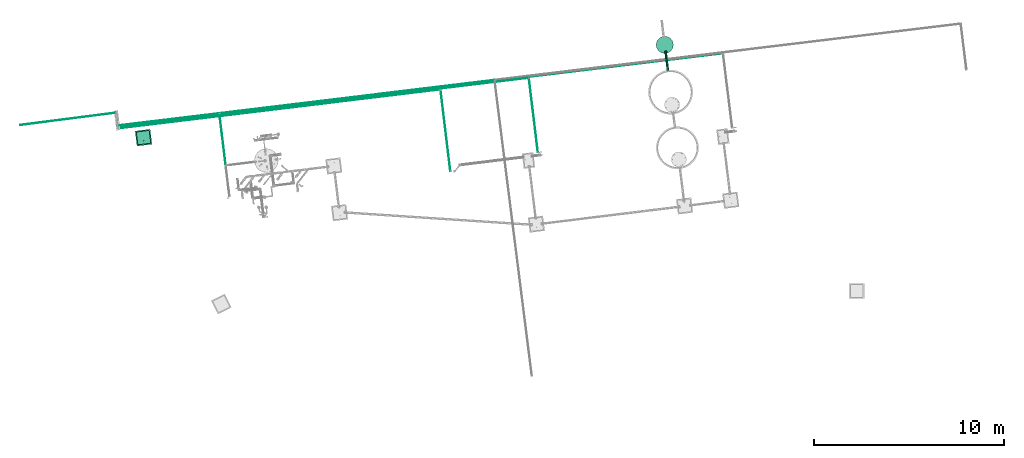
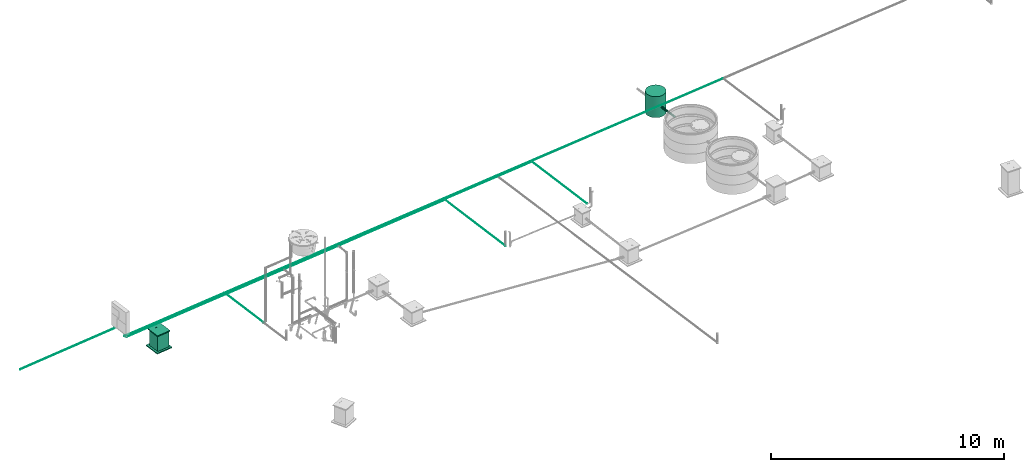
# One storey, part 8 of 97: 10 flow segments, 2 flow terminals.
"""IFC2X3 building model written with IfcOpenShell, lengths in centimetres."""

from ifc_helpers import new_model, entity, si_unit, converted_unit, derived_unit, direction, frame, frame_2d, origin, origin_2d_with_axis, place, context, subcontext, project, spatial, rectangle, circle, hollow_circle, extrude, faceted_brep, source, transform, mapped, material, material_list, type_object, type_shapes, element, save


model = new_model("IFC2X3")

# Units and contexts
model_context = context("Model", 3, precision=0.001, world=origin(), true_north=direction((6.12303176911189e-17, 1.0)))
body_context = subcontext(model_context, "Body", "Model", "MODEL_VIEW")
ifc_project = project(units=[si_unit("LENGTHUNIT", "METRE", prefix="CENTI"), si_unit("AREAUNIT", "SQUARE_METRE"), si_unit("VOLUMEUNIT", "CUBIC_METRE"), converted_unit("PLANEANGLEUNIT", "DEGREE", entity("IfcRatioMeasure", 0.0174532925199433), si_unit("PLANEANGLEUNIT", "RADIAN"), dimensions=[0, 0, 0, 0, 0, 0, 0]), si_unit("MASSUNIT", "GRAM", prefix="KILO"), derived_unit("MASSDENSITYUNIT", [(si_unit("MASSUNIT", "GRAM", prefix="KILO"), 1), (si_unit("LENGTHUNIT", "METRE"), -3)]), derived_unit("MOMENTOFINERTIAUNIT", [(si_unit("LENGTHUNIT", "METRE"), 4)]), si_unit("TIMEUNIT", "SECOND"), si_unit("FREQUENCYUNIT", "HERTZ"), si_unit("THERMODYNAMICTEMPERATUREUNIT", "DEGREE_CELSIUS"), derived_unit("THERMALTRANSMITTANCEUNIT", [(si_unit("MASSUNIT", "GRAM", prefix="KILO"), 1), (si_unit("THERMODYNAMICTEMPERATUREUNIT", "KELVIN"), -1), (si_unit("TIMEUNIT", "SECOND"), -3)]), derived_unit("VOLUMETRICFLOWRATEUNIT", [(si_unit("LENGTHUNIT", "METRE"), 3), (si_unit("TIMEUNIT", "SECOND"), -1)]), si_unit("ELECTRICCURRENTUNIT", "AMPERE"), si_unit("ELECTRICVOLTAGEUNIT", "VOLT"), si_unit("POWERUNIT", "WATT"), si_unit("FORCEUNIT", "NEWTON", prefix="KILO"), si_unit("ILLUMINANCEUNIT", "LUX"), si_unit("LUMINOUSFLUXUNIT", "LUMEN"), si_unit("LUMINOUSINTENSITYUNIT", "CANDELA"), derived_unit("USERDEFINED", [(si_unit("MASSUNIT", "GRAM", prefix="KILO"), -1), (si_unit("LENGTHUNIT", "METRE"), -2), (si_unit("TIMEUNIT", "SECOND"), 3), (si_unit("LUMINOUSFLUXUNIT", "LUMEN"), 1)]), derived_unit("LINEARVELOCITYUNIT", [(si_unit("LENGTHUNIT", "METRE"), 1), (si_unit("TIMEUNIT", "SECOND"), -1)]), si_unit("PRESSUREUNIT", "PASCAL"), derived_unit("USERDEFINED", [(si_unit("LENGTHUNIT", "METRE"), -2), (si_unit("MASSUNIT", "GRAM", prefix="KILO"), 1), (si_unit("TIMEUNIT", "SECOND"), -2)]), derived_unit("LINEARFORCEUNIT", [(si_unit("MASSUNIT", "GRAM", prefix="KILO"), 1), (si_unit("LENGTHUNIT", "METRE"), 1), (si_unit("TIMEUNIT", "SECOND"), -2), (si_unit("LENGTHUNIT", "METRE"), -1)]), derived_unit("PLANARFORCEUNIT", [(si_unit("MASSUNIT", "GRAM", prefix="KILO"), 1), (si_unit("LENGTHUNIT", "METRE"), 1), (si_unit("TIMEUNIT", "SECOND"), -2), (si_unit("LENGTHUNIT", "METRE"), -2)])], contexts=[model_context])

# Site, building, storey
site_placement = place(None, origin())
site = spatial("IfcSite", under=ifc_project, at=site_placement, Name="Default", CompositionType="ELEMENT")
building_placement = place(site_placement, origin())
building = spatial("IfcBuilding", under=site, at=building_placement, Name="HIDROSSANITÁRIO", CompositionType="ELEMENT")
storey_placement = place(building_placement, frame((0.0, 0.0, -260.0)))
storey = spatial("IfcBuildingStorey", under=building, at=storey_placement, Name="TÉRREO-HID", CompositionType="ELEMENT", Elevation=-260.0)

# Flow segments
pipe_segment_type_1 = type_object("IfcPipeSegmentType", Name="Tipos de tubos:Tubo Marrom - Água Fria - Soldável", PredefinedType="NOTDEFINED")
flow_segment_1_placement = place(storey_placement, origin())
element("IfcFlowSegment", 1, at=flow_segment_1_placement, inside=storey, type_object=pipe_segment_type_1, Name="Tipos de tubos:Tubo Marrom - Água Fria - Soldável", ObjectType="Tipos de tubos:Tubo Marrom - Água Fria - Soldável", context=body_context, shape_type="SweptSolid", body=[
    extrude(circle(Radius=1.25, at=origin_2d_with_axis()), frame((-685.911495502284, 2984.23114704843, -15.0), z_axis=(-0.120018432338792, 0.992771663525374, 0.0), x_axis=(0.992771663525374, 0.120018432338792, 0.0)), (0.0, 0.0, 1.0), 430.870851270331),
])
flow_segment_2_placement = place(storey_placement, origin())
element("IfcFlowSegment", 2, at=flow_segment_2_placement, inside=storey, type_object=pipe_segment_type_1, Name="Tipos de tubos:Tubo Marrom - Água Fria - Soldável", ObjectType="Tipos de tubos:Tubo Marrom - Água Fria - Soldável", context=body_context, shape_type="SweptSolid", body=[
    extrude(circle(Radius=1.25, at=origin_2d_with_axis()), frame((-272.351493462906, 3473.25126847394, -15.0), z_axis=(0.119975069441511, -0.992776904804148, 0.0), x_axis=(0.992776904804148, 0.119975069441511, 0.0)), (0.0, 0.0, 1.0), 392.524345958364),
])
flow_segment_3_placement = place(storey_placement, origin())
element("IfcFlowSegment", 3, at=flow_segment_3_placement, inside=storey, type_object=pipe_segment_type_1, Name="Tipos de tubos:Tubo Marrom - Água Fria - Soldável", ObjectType="Tipos de tubos:Tubo Marrom - Água Fria - Soldável", context=body_context, shape_type="SweptSolid", body=[
    extrude(circle(Radius=1.25, at=origin_2d_with_axis()), frame((-2436.49811310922, 3223.35404548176, -20.0), z_axis=(0.992773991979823, 0.119999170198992, 0.0), x_axis=(-0.119999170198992, 0.992773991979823, 0.0)), (0.0, 0.0, 1.0), 536.606921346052),
])
flow_segment_4_placement = place(storey_placement, origin())
element("IfcFlowSegment", 4, at=flow_segment_4_placement, inside=storey, type_object=pipe_segment_type_1, Name="Tipos de tubos:Tubo Marrom - Água Fria - Soldável", ObjectType="Tipos de tubos:Tubo Marrom - Água Fria - Soldável", context=body_context, shape_type="SweptSolid", body=[
    extrude(circle(Radius=1.25, at=origin_2d_with_axis()), frame((-1869.17096621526, 3014.76331112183, -20.0), z_axis=(-0.119999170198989, 0.992773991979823, 0.0), x_axis=(0.992773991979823, 0.119999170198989, 0.0)), (0.0, 0.0, 1.0), 273.712242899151),
])
flow_segment_5_placement = place(storey_placement, origin())
element("IfcFlowSegment", 5, at=flow_segment_5_placement, inside=storey, type_object=pipe_segment_type_1, Name="Tipos de tubos:Tubo Marrom - Água Fria - Soldável", ObjectType="Tipos de tubos:Tubo Marrom - Água Fria - Soldável", context=body_context, shape_type="SweptSolid", body=[
    extrude(circle(Radius=1.25, at=origin_2d_with_axis()), frame((-2952.33912618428, 3226.21148852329, -15.0), z_axis=(0.991879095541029, 0.127184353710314, 0.0), x_axis=(-0.127184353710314, 0.991879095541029, 0.0)), (0.0, 0.0, 1.0), 508.539903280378),
])
flow_segment_6_placement = place(storey_placement, origin())
element("IfcFlowSegment", 6, at=flow_segment_6_placement, inside=storey, type_object=pipe_segment_type_1, Name="Tipos de tubos:Tubo Marrom - Água Fria - Soldável", ObjectType="Tipos de tubos:Tubo Marrom - Água Fria - Soldável", context=body_context, shape_type="SweptSolid", body=[
    extrude(circle(Radius=1.25, at=origin_2d_with_axis()), frame((-2435.85745363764, 3218.33867787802, -15.0), z_axis=(0.992770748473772, 0.120026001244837, 0.0), x_axis=(0.120026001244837, -0.992770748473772, 0.0)), (0.0, 0.0, 1.0), 3207.37749668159),
])
flow_segment_7_placement = place(storey_placement, origin())
element("IfcFlowSegment", 7, at=flow_segment_7_placement, inside=storey, type_object=pipe_segment_type_1, Name="Tipos de tubos:Tubo Marrom - Água Fria - Soldável", ObjectType="Tipos de tubos:Tubo Marrom - Água Fria - Soldável", context=body_context, shape_type="SweptSolid", body=[
    extrude(circle(Radius=1.25, at=frame_2d((0.0, -5.41433564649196e-14), x_axis=(1.0, 0.0))), frame((-2435.28636523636, 3213.37128306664, -15.0), z_axis=(0.992767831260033, 0.12005012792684, 0.0), x_axis=(0.12005012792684, -0.992767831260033, 0.0)), (0.0, 0.0, 1.0), 2176.81273061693),
])
flow_segment_8_placement = place(storey_placement, origin())
element("IfcFlowSegment", 8, at=flow_segment_8_placement, inside=storey, type_object=pipe_segment_type_1, Name="Tipos de tubos:Tubo Marrom - Água Fria - Soldável", ObjectType="Tipos de tubos:Tubo Marrom - Água Fria - Soldável", context=body_context, shape_type="SweptSolid", body=[
    extrude(circle(Radius=1.25, at=frame_2d((0.0, -5.41433564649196e-14), x_axis=(1.0, 0.0))), frame((-2434.62325458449, 3208.46114855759, -15.0), z_axis=(0.992768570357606, 0.120044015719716, 0.0), x_axis=(0.120044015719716, -0.992768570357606, 0.0)), (0.0, 0.0, 1.0), 1707.49970928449),
])
flow_segment_9_placement = place(storey_placement, origin())
element("IfcFlowSegment", 9, at=flow_segment_9_placement, inside=storey, type_object=pipe_segment_type_1, Name="Tipos de tubos:Tubo Marrom - Água Fria - Soldável", ObjectType="Tipos de tubos:Tubo Marrom - Água Fria - Soldável", context=body_context, shape_type="SweptSolid", body=[
    extrude(circle(Radius=1.25, at=frame_2d((5.19772627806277e-14, 0.0), x_axis=(1.0, 0.0))), frame((-1900.611696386, 3288.12802812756, -20.0), z_axis=(0.992773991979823, 0.11999917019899, 0.0), x_axis=(-0.11999917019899, 0.992773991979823, 0.0)), (0.0, 0.0, 1.0), 1456.36253007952),
])
pipe_segment_type_2 = type_object("IfcPipeSegmentType", Name="Tipos de tubos:Tubo - Esgoto - Série Normal", PredefinedType="NOTDEFINED")
flow_segment_10_placement = place(storey_placement, origin())
element("IfcFlowSegment", 10, at=flow_segment_10_placement, inside=storey, type_object=pipe_segment_type_2, Name="Tipos de tubos:Tubo - Esgoto - Série Normal", ObjectType="Tipos de tubos:Tubo - Esgoto - Série Normal", context=body_context, shape_type="SweptSolid", body=[
    extrude(circle(Radius=5.0, at=frame_2d((-5.37378959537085e-14, 6.61341167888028e-17), x_axis=(1.0, 0.0))), frame((446.560956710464, 3616.29520603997, -61.02), z_axis=(0.122146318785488, -0.992461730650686, 0.00999950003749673), x_axis=(0.992511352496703, 0.122152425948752, 0.0)), (0.0, 0.0, 1.0), 102.005099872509),
])

# Flow terminals
ifc_material_1 = material(Name="<Unnamed>")
ifc_material_list_1 = material_list([ifc_material_1, ifc_material_1, ifc_material_1, ifc_material_1])
ifc_material_list_2 = material_list([ifc_material_1, ifc_material_1, ifc_material_1, ifc_material_1])
distribution_element_type_1 = type_object("IfcDistributionElementType", Name="CE HS SNT CAIXA DE INSPEÇÃO:INSPEÇÃO 60cm", material=ifc_material_list_2)
shared_shape_1 = source(origin(), body_context, "Body", "SweptSolid", [
    extrude(rectangle(XDim=5.0, YDim=15.0, at=origin_2d_with_axis()), frame((42.5, 0.0, -105.0), z_axis=(0.0, 0.0, 1.0), x_axis=(-1.0, 0.0, 0.0)), (0.0, 0.0, 1.0), 10.0),
    extrude(circle(Radius=45.0, at=frame_2d((2.01359935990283e-22, -7.26995058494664e-14), x_axis=(1.0, 0.0))), frame((0.0, 0.0, -110.0)), (0.0, 0.0, 1.0), 5.00000000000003),
    extrude(circle(Radius=45.0, at=frame_2d((0.0, -7.26995058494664e-14), x_axis=(1.0, 0.0))), frame((0.0, 0.0, -5.0)), (0.0, 0.0, 1.0), 5.0),
    extrude(hollow_circle(Radius=45.0, WallThickness=5.00000000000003, at=frame_2d((-1.29298162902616e-17, -7.26995058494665e-14), x_axis=(1.0, 0.0))), frame((0.0, 0.0, -105.0)), (0.0, 0.0, 1.0), 100.0),
])
type_shapes(distribution_element_type_1, [shared_shape_1])
flow_terminal_1_placement = place(storey_placement, frame((442.547538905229, 3648.90497783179, 0.499999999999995), z_axis=(0.0, 0.0, 1.0), x_axis=(0.992511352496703, 0.122152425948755, 0.0)))
element("IfcFlowTerminal", 11, at=flow_terminal_1_placement, inside=storey, type_object=distribution_element_type_1, material=ifc_material_list_1, Name="CE HS SNT CAIXA DE INSPEÇÃO:INSPEÇÃO 60cm", ObjectType="CE HS SNT CAIXA DE INSPEÇÃO:INSPEÇÃO 60cm", context=body_context, shape_type="MappedRepresentation", body=[
    mapped(shared_shape_1, transform((0.0, 0.0, 0.0), scale=1.0)),
])
ifc_material_2 = material(Name="Concrete, Sand/Cement Screed")
ifc_material_3 = material(Name="Brick, Common, Grey")
ifc_material_list_3 = material_list([ifc_material_1, ifc_material_2, ifc_material_3])
ifc_material_list_4 = material_list([ifc_material_1, ifc_material_2, ifc_material_3])
distribution_element_type_2 = type_object("IfcDistributionElementType", Name="Caixa de Inspeção/Gordura:Alvenaria", material=ifc_material_list_4)
shared_shape_2 = source(origin(), body_context, "Body", "Brep", [
    faceted_brep([(-5.60146522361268, 16.5924553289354, 3.71042168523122), (-5.40613785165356, 16.3971279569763, 3.71042168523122), (-5.60146522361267, 16.2018005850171, 3.71042168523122), (-5.79679259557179, 16.3971279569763, 3.71042168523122), (6.39853477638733, 16.2018005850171, 3.71042168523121), (6.20320740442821, 16.3971279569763, 3.71042168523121), (6.39853477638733, 16.5924553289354, 3.71042168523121), (6.59386214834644, 16.3971279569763, 3.71042168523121), (-5.40613785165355, 16.3971279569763, 5.27042602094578), (-5.57070403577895, 16.2042380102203, 5.71042174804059), (-5.79679259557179, 16.3971279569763, 5.27042593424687), (-5.40613785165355, 16.3971279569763, 7.71042168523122), (-5.60146522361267, 16.2018005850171, 7.71042168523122), (-5.40613785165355, 16.3971279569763, 6.1504173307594), (-5.79679259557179, 16.3971279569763, 7.71042168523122), (-5.60146522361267, 16.5924553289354, 7.71042168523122), (-5.63222641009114, 16.5900179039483, 5.71042169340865), (-5.68947233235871, 16.5044482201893, 7.71042168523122), (-5.25102598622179, 16.2195619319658, 8.35998244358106), (-5.37993713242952, 16.2298951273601, 8.48889359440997), (-4.60146522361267, 16.3971279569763, 8.90574905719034), (-4.60146522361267, 16.2018005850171, 8.71042168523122), (-5.17045469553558, 16.3971279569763, 8.27941115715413), (-4.60146522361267, 16.3971279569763, 8.5150943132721), (-5.44668931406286, 16.3971279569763, 8.55564577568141), (-5.36898819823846, 16.5727768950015, 8.47794465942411), (-5.21737432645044, 16.5627205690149, 8.36172681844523), (-4.60146522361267, 16.5924553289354, 8.71042168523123), (0.518543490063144, 16.3971279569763, 8.90574905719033), (1.73854147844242, 16.2018005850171, 8.71042168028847), (2.95853913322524, 16.3971279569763, 8.90574905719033), (-0.76461087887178, 16.2018577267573, 8.71514602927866), (-2.16146960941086, 16.3971279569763, 8.5150943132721), (0.278526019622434, 16.3971279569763, 8.5150943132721), (0.398534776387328, 16.3971279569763, 8.5150943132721), (-2.16146958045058, 16.3971279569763, 8.90574905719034), (5.39853477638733, 16.2018005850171, 8.71042168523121), (5.39853477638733, 16.3971279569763, 8.90574905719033), (2.95853916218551, 16.3971279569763, 8.5150943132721), (5.39853477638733, 16.3971279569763, 8.51509431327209), (0.398534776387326, 16.3971279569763, 8.90574905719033), (1.56168082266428, 16.5923981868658, 8.70569732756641), (-0.941471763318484, 16.5924553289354, 8.71042168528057), (5.39853477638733, 16.5924553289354, 8.71042168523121), (5.39853477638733, 16.5044482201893, 8.79842879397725), (6.04809553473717, 16.2195619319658, 8.35998244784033), (6.17700668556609, 16.2298951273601, 8.48889359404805), (6.59386214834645, 16.3971279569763, 7.71042168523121), (6.39853477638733, 16.2018005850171, 7.71042168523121), (5.96752424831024, 16.3971279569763, 8.27941115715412), (6.20320740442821, 16.3971279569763, 7.71042168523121), (6.24375886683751, 16.3971279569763, 8.5556457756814), (6.16605775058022, 16.5727768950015, 8.477944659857), (6.04983990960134, 16.5627205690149, 8.32633078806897), (6.39853477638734, 16.5924553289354, 7.71042168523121), (6.20320740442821, 16.3971279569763, 6.15041734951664), (6.36777358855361, 16.2042380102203, 5.71042162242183), (6.59386214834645, 16.3971279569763, 6.15041743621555), (6.20320740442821, 16.3971279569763, 5.27042603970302), (6.4292959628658, 16.5900179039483, 5.71042167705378)], [[[0, 1, 2, 3]], [[4, 5, 6, 7]], [[8, 9, 2]], [[2, 10, 3]], [[10, 2, 9]], [[11, 12, 9]], [[8, 2, 1]], [[9, 8, 13, 11]], [[9, 12, 14]], [[14, 10, 9]], [[13, 15, 11]], [[0, 10, 16]], [[14, 16, 10]], [[10, 0, 3]], [[16, 13, 8, 1]], [[13, 16, 15]], [[1, 0, 16]], [[16, 14, 17, 15]], [[12, 18, 19]], [[20, 19, 21]], [[14, 12, 19]], [[11, 22, 18]], [[23, 21, 18]], [[14, 19, 24]], [[24, 19, 20]], [[23, 18, 22]], [[19, 18, 21]], [[11, 18, 12]], [[17, 14, 24]], [[25, 26, 15]], [[25, 15, 17]], [[11, 15, 26]], [[25, 27, 26]], [[20, 25, 24]], [[20, 27, 25]], [[26, 22, 11]], [[22, 26, 23]], [[17, 24, 25]], [[23, 26, 27]], [[28, 29, 30]], [[31, 32, 33, 34]], [[35, 20, 21]], [[36, 37, 30]], [[29, 28, 31]], [[38, 39, 36]], [[21, 23, 32]], [[34, 29, 31]], [[32, 31, 21]], [[30, 29, 36]], [[34, 38, 29]], [[36, 29, 38]], [[31, 28, 40, 35]], [[31, 35, 21]], [[40, 41, 42]], [[43, 39, 38]], [[27, 42, 33, 32, 23]], [[27, 20, 35, 40, 42]], [[30, 37, 44, 43]], [[38, 41, 43]], [[30, 43, 41]], [[42, 41, 33]], [[41, 40, 28, 30]], [[41, 38, 34, 33]], [[36, 45, 46]], [[47, 46, 48]], [[37, 36, 46]], [[39, 49, 45]], [[50, 48, 45]], [[37, 46, 51]], [[51, 46, 47]], [[50, 45, 49]], [[46, 45, 48]], [[39, 45, 36]], [[44, 37, 51]], [[52, 53, 43]], [[52, 43, 44]], [[39, 43, 53]], [[52, 54, 53]], [[47, 52, 51]], [[47, 54, 52]], [[53, 49, 39]], [[49, 53, 50]], [[44, 51, 52]], [[50, 53, 54]], [[55, 56, 48]], [[48, 57, 47]], [[57, 48, 56]], [[5, 4, 56]], [[55, 48, 50]], [[56, 55, 58, 5]], [[56, 4, 7]], [[7, 57, 56]], [[58, 6, 5]], [[54, 57, 59]], [[7, 59, 57]], [[57, 54, 47]], [[59, 58, 55, 50]], [[58, 59, 6]], [[50, 54, 59]], [[7, 6, 59]]]),
    faceted_brep([(-5.60146522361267, -16.5924553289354, 3.71042168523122), (-5.79679259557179, -16.3971279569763, 3.71042168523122), (-5.60146522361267, -16.2018005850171, 3.71042168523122), (-5.40613785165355, -16.3971279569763, 3.71042168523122), (6.39853477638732, -16.2018005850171, 3.71042168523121), (6.59386214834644, -16.3971279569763, 3.71042168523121), (6.39853477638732, -16.5924553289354, 3.71042168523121), (6.20320740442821, -16.3971279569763, 3.71042168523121), (-5.79679259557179, -16.3971279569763, 6.15041737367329), (-5.60146522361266, -16.5924553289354, 7.71042168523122), (-5.68947233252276, -16.5044482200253, 7.71042168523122), (-5.79679259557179, -16.3971279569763, 7.71042168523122), (-5.40613785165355, -16.3971279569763, 5.27042602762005), (-5.5707040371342, -16.5900179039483, 5.71042169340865), (-5.40613785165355, -16.3971279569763, 7.71042168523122), (-5.79679259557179, -16.3971279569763, 5.27042602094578), (-5.51345811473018, -16.5044482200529, 7.71042168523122), (-5.63222641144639, -16.2042380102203, 5.71042174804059), (-5.60146522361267, -16.2018005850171, 7.71042168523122), (-5.37028554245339, -16.5521831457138, 8.52319636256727), (-5.44668931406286, -16.3971279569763, 8.55564577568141), (-5.17045469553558, -16.3971279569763, 8.27941115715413), (-4.60146522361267, -16.3971279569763, 8.5150943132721), (-4.60146522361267, -16.5044482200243, 8.62241457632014), (-4.60146522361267, -16.5924553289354, 8.71042168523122), (-4.60146522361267, -16.5044482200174, 8.79842879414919), (-5.27261908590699, -16.5857215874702, 8.3815755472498), (-4.60146522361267, -16.3971279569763, 8.90574905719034), (-5.23720687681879, -16.2298951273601, 8.34616333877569), (-4.60146522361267, -16.2018005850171, 8.71042168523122), (-5.36611802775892, -16.2195619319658, 8.4750744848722), (0.398534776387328, -16.3971279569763, 8.5150943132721), (1.56168082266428, -16.5923981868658, 8.71514604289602), (-0.941471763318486, -16.5924553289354, 8.71042168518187), (2.95853912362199, -16.3971279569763, 8.90574905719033), (5.39853477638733, -16.5924553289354, 8.71042168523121), (5.39853477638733, -16.5044482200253, 8.7984287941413), (5.39853477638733, -16.3971279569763, 8.90574905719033), (0.278526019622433, -16.3971279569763, 8.90574905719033), (-2.16146957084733, -16.3971279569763, 8.90574905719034), (-2.16146960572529, -16.3971279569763, 8.5150943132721), (2.95853915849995, -16.3971279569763, 8.51509431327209), (5.39853477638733, -16.3971279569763, 8.51509431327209), (5.39853477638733, -16.5044482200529, 8.62241457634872), (0.518543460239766, -16.3971279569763, 8.5150943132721), (0.398534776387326, -16.3971279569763, 8.90574905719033), (1.73854147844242, -16.2018005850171, 8.71042169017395), (-0.76461087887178, -16.2018577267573, 8.70569734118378), (5.39853477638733, -16.2018005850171, 8.71042168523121), (6.21130945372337, -16.5521831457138, 8.47924200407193), (6.24375886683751, -16.3971279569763, 8.5556457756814), (5.96752424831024, -16.3971279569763, 8.27941115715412), (6.20320740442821, -16.3971279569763, 7.71042168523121), (6.31052766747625, -16.5044482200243, 7.71042168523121), (6.39853477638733, -16.5924553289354, 7.71042168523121), (6.4865418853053, -16.5044482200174, 7.71042168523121), (6.06968863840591, -16.5857215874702, 8.38157554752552), (6.59386214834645, -16.3971279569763, 7.71042168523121), (6.03427642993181, -16.2298951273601, 8.34616333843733), (6.39853477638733, -16.2018005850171, 7.71042168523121), (6.16318757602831, -16.2195619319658, 8.47507448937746), (6.59386214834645, -16.3971279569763, 5.27042599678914), (6.20320740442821, -16.3971279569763, 6.15041726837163), (6.36777358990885, -16.5900179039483, 5.71042167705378), (6.59386214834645, -16.3971279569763, 6.15041734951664), (6.42929596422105, -16.2042380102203, 5.71042162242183)], [[[0, 1, 2, 3]], [[4, 5, 6, 7]], [[8, 9, 10, 11]], [[0, 12, 13]], [[14, 13, 12]], [[12, 0, 3]], [[13, 8, 15, 1]], [[8, 13, 9]], [[1, 0, 13]], [[13, 14, 16, 9]], [[15, 17, 2]], [[2, 12, 3]], [[12, 2, 17]], [[11, 18, 17]], [[15, 2, 1]], [[17, 15, 8, 11]], [[17, 18, 14]], [[14, 12, 17]], [[19, 10, 9]], [[10, 19, 20]], [[21, 22, 23]], [[24, 25, 19]], [[24, 26, 23]], [[24, 19, 26]], [[16, 26, 9]], [[20, 25, 27]], [[20, 11, 10]], [[23, 26, 21]], [[19, 25, 20]], [[14, 21, 16]], [[26, 19, 9]], [[26, 16, 21]], [[22, 28, 29]], [[18, 30, 28]], [[14, 28, 21]], [[14, 18, 28]], [[11, 20, 30]], [[27, 30, 20]], [[27, 29, 30]], [[11, 30, 18]], [[21, 28, 22]], [[28, 30, 29]], [[31, 32, 33]], [[34, 35, 36, 37]], [[24, 33, 38, 39, 27, 25]], [[40, 31, 33, 24, 23, 22]], [[41, 42, 43, 35]], [[34, 32, 35]], [[41, 35, 32]], [[33, 32, 38]], [[32, 31, 44, 41]], [[32, 34, 45, 38]], [[44, 46, 41]], [[47, 39, 38, 45]], [[40, 22, 29]], [[48, 42, 41]], [[46, 44, 47]], [[34, 37, 48]], [[29, 27, 39]], [[45, 46, 47]], [[39, 47, 29]], [[41, 46, 48]], [[45, 34, 46]], [[48, 46, 34]], [[47, 44, 31, 40]], [[47, 40, 29]], [[49, 36, 35]], [[36, 49, 50]], [[51, 52, 53]], [[54, 55, 49]], [[54, 56, 53]], [[54, 49, 56]], [[43, 56, 35]], [[50, 55, 57]], [[50, 37, 36]], [[53, 56, 51]], [[49, 55, 50]], [[42, 51, 43]], [[56, 49, 35]], [[56, 43, 51]], [[52, 58, 59]], [[48, 60, 58]], [[42, 58, 51]], [[42, 48, 58]], [[37, 50, 60]], [[57, 60, 50]], [[57, 59, 60]], [[37, 60, 48]], [[51, 58, 52]], [[58, 60, 59]], [[61, 6, 5]], [[54, 62, 63]], [[7, 63, 62]], [[62, 54, 53, 52]], [[63, 61, 64, 57]], [[61, 63, 6]], [[63, 57, 55, 54]], [[7, 6, 63]], [[64, 65, 59]], [[59, 62, 52]], [[62, 59, 65]], [[5, 4, 65]], [[64, 59, 57]], [[65, 64, 61, 5]], [[65, 4, 7]], [[7, 62, 65]]]),
    faceted_brep([(34.0, 34.0, 6.0), (-34.0, 34.0, 6.0), (-34.0, -34.0, 6.0), (34.0, -34.0, 6.0), (34.0, 34.0, 1.0), (34.0, -34.0, 1.0), (-34.0, -34.0, 1.0), (-34.0, 34.0, 1.0)], [[[0, 1, 2, 3]], [[4, 5, 6, 7]], [[1, 0, 4, 7]], [[2, 1, 7, 6]], [[3, 2, 6, 5]], [[0, 3, 5, 4]]]),
    faceted_brep([(40.0, 40.0, -80.0), (-40.0, 40.0, -80.0), (-40.0, -40.0, -80.0), (40.0, -40.0, -80.0), (40.0, 40.0, -85.0), (40.0, -40.0, -85.0), (-40.0, -40.0, -85.0), (-40.0, 40.0, -85.0)], [[[0, 1, 2, 3]], [[4, 5, 6, 7]], [[1, 0, 4, 7]], [[2, 1, 7, 6]], [[3, 2, 6, 5]], [[0, 3, 5, 4]]]),
    faceted_brep([(25.0, 25.0, 1.0), (25.0, -25.0, 1.0), (-25.0, -25.0, 1.0), (-25.0, 25.0, 1.0), (30.0, 30.0, 1.0), (-30.0, 30.0, 1.0), (-30.0, -30.0, 1.0), (30.0, -30.0, 1.0), (25.0, 25.0, -80.0), (-25.0, 25.0, -80.0), (-25.0, -25.0, -80.0), (25.0, -25.0, -80.0), (30.0, 30.0, -80.0), (30.0, -30.0, -80.0), (-30.0, -30.0, -80.0), (-30.0, 30.0, -80.0)], [[[0, 1, 2, 3], [4, 5, 6, 7]], [[8, 9, 10, 11], [12, 13, 14, 15]], [[1, 0, 8, 11]], [[2, 1, 11, 10]], [[3, 2, 10, 9]], [[0, 3, 9, 8]], [[5, 4, 12, 15]], [[6, 5, 15, 14]], [[7, 6, 14, 13]], [[4, 7, 13, 12]]], outer=[[False, True], [False, True], [True], [True], [True], [True], [True], [True], [True], [True]]),
])
type_shapes(distribution_element_type_2, [shared_shape_2])
flow_terminal_2_placement = place(storey_placement, frame((-2301.95069031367, 3160.206786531, 0.0), z_axis=(0.0, 0.0, 1.0), x_axis=(0.992511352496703, 0.122152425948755, 0.0)))
element("IfcFlowTerminal", 12, at=flow_terminal_2_placement, inside=storey, type_object=distribution_element_type_2, material=ifc_material_list_3, Name="Caixa de Inspeção/Gordura:Alvenaria", ObjectType="Caixa de Inspeção/Gordura:Alvenaria", context=body_context, shape_type="MappedRepresentation", body=[
    mapped(shared_shape_2, transform((0.0, 0.0, 0.0), scale=1.0)),
])

save(model, "model.ifc")
